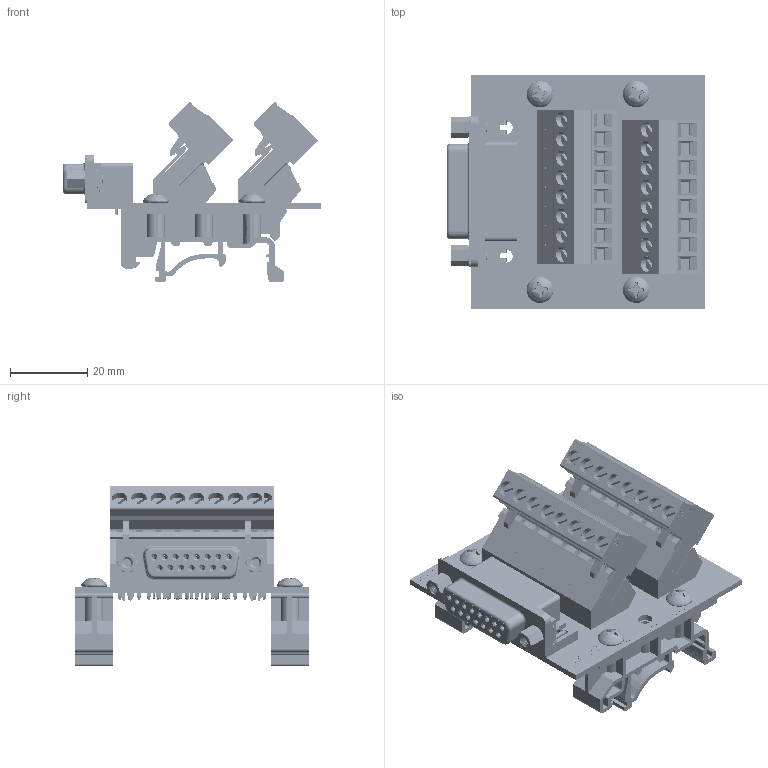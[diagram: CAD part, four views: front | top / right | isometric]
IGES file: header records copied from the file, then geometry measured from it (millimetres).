
Start section: SolidWorks IGES file using analytic representation for surfaces
Global section: file name: D:\Documents\Winford Engineering Jobs\BRKLD15\BRKLD15F\brkld15f-rw-din_rev_a.igs; native system: SolidWorks 2017; preprocessor: SolidWorks 2017; author: mudhf; date: 210208.220702; units: inch
Bounding box: 67.19 x 60.96 x 46.77 mm (x, y, z)
Surface area: 40891.5 mm2 (no closed solid volume)
Topology: 0 solids, 0 shells, 7759 faces, 61277 edges, 61270 vertices
Faces by surface type: bspline 5909, revolution 1850
